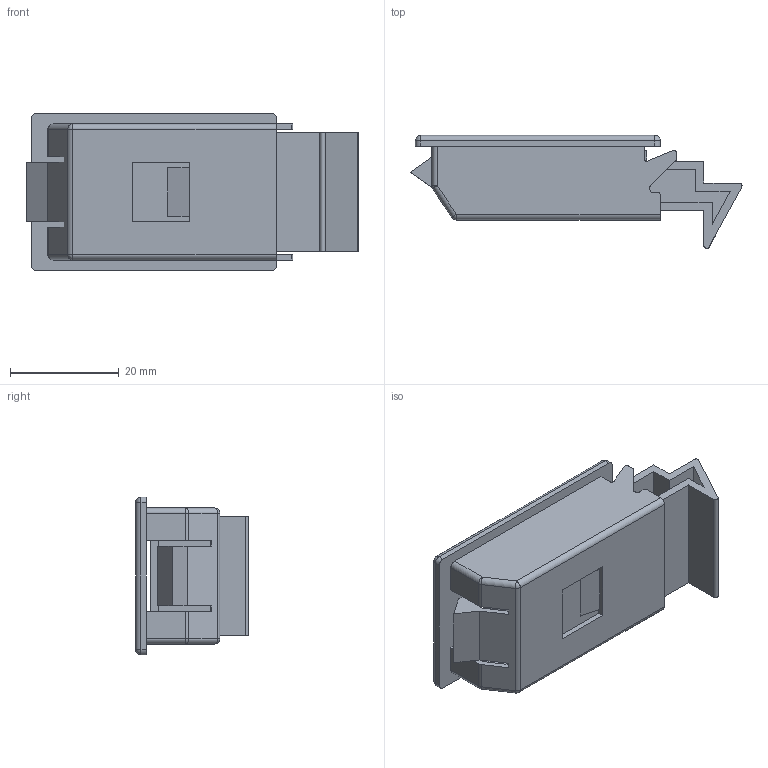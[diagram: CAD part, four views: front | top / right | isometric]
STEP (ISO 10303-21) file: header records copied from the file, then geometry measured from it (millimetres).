
FILE_DESCRIPTION (( 'STEP AP203' ), '1' );
FILE_NAME ('SK4-014.STEP', '2018-11-02T05:07:14', ( 'admin' ), ( 'Microsoft' ), 'SwSTEP 2.0', 'SolidWorks 2015', '' );
FILE_SCHEMA (( 'CONFIG_CONTROL_DESIGN' ));
Length unit declared in the file: millimetre
Products named in the file (3): SK4-014 囀; SK4-014 俋; SK4-014
Assembly tree (2 placements, depth 2):
  SK4-014
    SK4-014 囀
    SK4-014 俋
Bounding box: 61 x 20.75 x 29 mm (x, y, z)
Volume: 8125.1 mm3; surface area: 12183.5 mm2
Topology: 2 solids, 2 shells, 120 faces, 321 edges, 202 vertices
Faces by surface type: plane 81, cylinder 31, sphere 8
Entity records: 3966 total; most frequent: CARTESIAN_POINT 642, ORIENTED_EDGE 630, DIRECTION 627, EDGE_CURVE 315, VECTOR 253, LINE 253, VERTEX_POINT 202, AXIS2_PLACEMENT_3D 187
